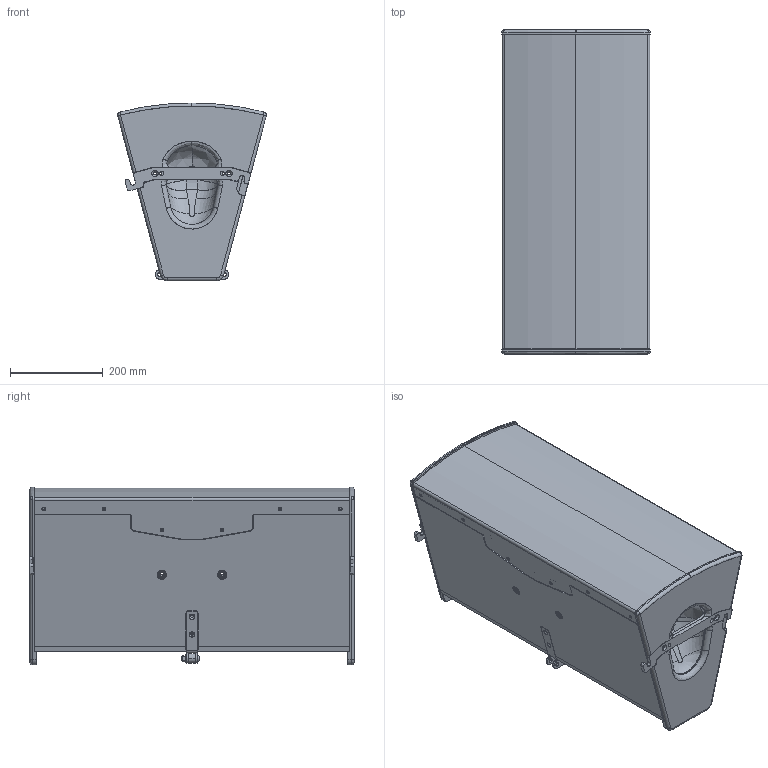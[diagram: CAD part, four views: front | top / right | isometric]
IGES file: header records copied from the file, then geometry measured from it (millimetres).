
Start section: SolidWorks IGES file using analytic representation for surfaces
Global section: file name: D:\Entwicklungen\Projekte aktuell\C-Serie\Solid\WEB\Compact\C30-3D.IGS; native system: SolidWorks 2009; preprocessor: SolidWorks 2009; author: Nico; date: 240918.125729; units: millimetre
Bounding box: 321.04 x 700 x 384 mm (x, y, z)
Surface area: 1557604 mm2 (no closed solid volume)
Topology: 0 solids, 0 shells, 770 faces, 12591 edges, 12585 vertices
Faces by surface type: revolution 444, bspline 326
